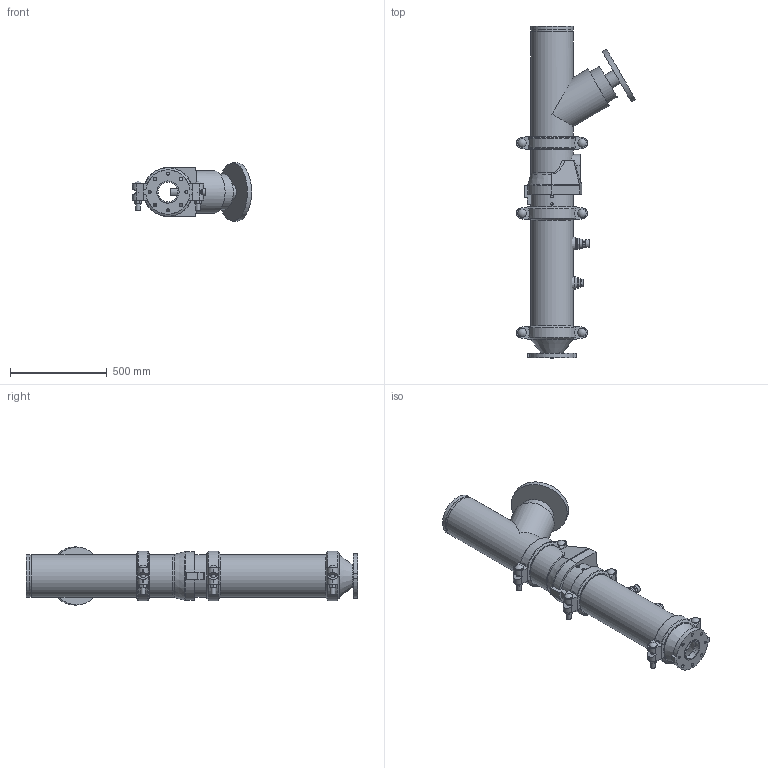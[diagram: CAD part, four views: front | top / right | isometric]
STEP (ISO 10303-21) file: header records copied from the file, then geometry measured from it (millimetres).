
FILE_DESCRIPTION(/* description */ ('VIC DVI PUMP DROP VERT S/383 (OGSxFLG) (S/924-0.75)','CAx-IF Rec.Pracs.---Representation and Presentation of Product Manufacturing Information (PMI)---4.0---2014-10-13'),/* implementation_level */ '2;1');
FILE_NAME(/* name */ 'C:\Users\Public\Documents\Victaulic.Temp\A849\Victaulic_IPS_Vertical DVI_CL 150_Series 383 (OGSxFLG)_924 (0.75)_08.0x04.0 (200x100).stp',/* time_stamp */ '2022-07-25T11:41:08+02:00',/* author */ ('Vjadhav'),/* organization */ ('Victaulic'),/* preprocessor_version */ 'ST-DEVELOPER v18',/* originating_system */ 'Autodesk Inventor 2020',/* authorisation */ '');
FILE_SCHEMA (('AP242_MANAGED_MODEL_BASED_3D_ENGINEERING_MIM_LF { 1 0 10303 442 1 1 4 }'));
Length unit declared in the file: inch
Products named in the file (9): 383_924 (0.75)-08.0x04.0; 741-04.0; 050-08.0x04.0; Pipe-08.0; 177N-08.0; 789-08.0; 779-08.0; 924-04.0x0.75; 923-04.0x0.75
Assembly tree (10 placements, depth 2):
  383_924 (0.75)-08.0x04.0
    741-04.0
    050-08.0x04.0
    177N-08.0  x3
    Pipe-08.0
    789-08.0
    779-08.0
    924-04.0x0.75
    923-04.0x0.75
Bounding box: 615.44 x 1714.5 x 299.97 mm (x, y, z)
Volume: 27123591.1 mm3; surface area: 3423940.3 mm2
Topology: 10 solids, 10 shells, 522 faces, 1377 edges, 925 vertices
Faces by surface type: plane 301, cylinder 176, cone 19, torus 18, sphere 6, bspline 2
Full cylindrical faces by diameter (mm): 13.716 x4, 15.875 x8, 23.774 x6, 26.67 x2, 38.608 x1, 42.85 x6, 45.974 x4, 55.626 x2, 76.2 x1, 102.26 x1, 110.084 x1, 114.3 x3, 183.515 x1, 202.717 x4, 206.375 x3, 214.401 x7, 219.075 x19, 299.974 x1
Entity records: 11670 total; most frequent: CARTESIAN_POINT 2380, DIRECTION 1909, ORIENTED_EDGE 1734, EDGE_CURVE 867, AXIS2_PLACEMENT_3D 732, VERTEX_POINT 589, LINE 445, VECTOR 445
